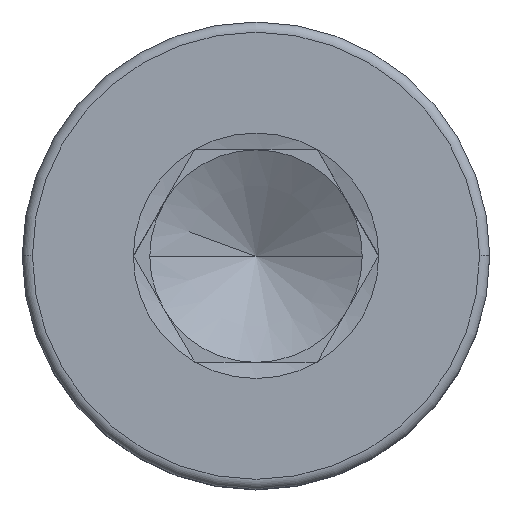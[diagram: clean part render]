
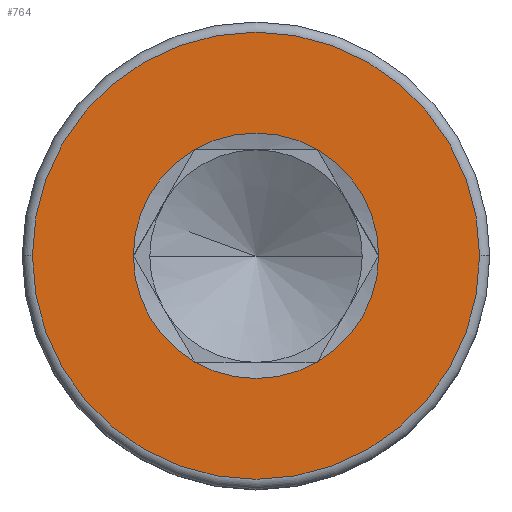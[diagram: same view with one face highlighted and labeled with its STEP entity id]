
A CAD part, top view. The second image highlights one B-rep face of the part: STEP entity #764.
In plain terms, the highlighted planar face has unit normal (0, 0, 1).
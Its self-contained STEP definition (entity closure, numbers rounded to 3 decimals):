
#47 = DIRECTION ( 'NONE',  ( 1., 0., 0. ) ) ;
#98 = VERTEX_POINT ( 'NONE', #1713 ) ;
#105 = EDGE_CURVE ( 'NONE', #403, #673, #1858, .T. ) ;
#153 = CARTESIAN_POINT ( 'NONE',  ( -0.722, -1.25, 3. ) ) ;
#171 = EDGE_CURVE ( 'NONE', #1370, #773, #267, .T. ) ;
#184 = CARTESIAN_POINT ( 'NONE',  ( 2.63, 0., 3. ) ) ;
#204 = PLANE ( 'NONE',  #421 ) ;
#251 = ORIENTED_EDGE ( 'NONE', *, *, #354, .F. ) ;
#266 = AXIS2_PLACEMENT_3D ( 'NONE', #1648, #1493, #1481 ) ;
#267 = CIRCLE ( 'NONE', #1734, 1.443 ) ;
#277 = VERTEX_POINT ( 'NONE', #184 ) ;
#286 = CARTESIAN_POINT ( 'NONE',  ( 0., 0., 3. ) ) ;
#319 = VERTEX_POINT ( 'NONE', #1053 ) ;
#354 = EDGE_CURVE ( 'NONE', #98, #1633, #572, .T. ) ;
#383 = DIRECTION ( 'NONE',  ( 1., 0., 0. ) ) ;
#397 = CARTESIAN_POINT ( 'NONE',  ( -1.443, 0., 3. ) ) ;
#403 = VERTEX_POINT ( 'NONE', #397 ) ;
#406 = CARTESIAN_POINT ( 'NONE',  ( 0., 0., 3. ) ) ;
#416 = DIRECTION ( 'NONE',  ( 1., 0., 0. ) ) ;
#421 = AXIS2_PLACEMENT_3D ( 'NONE', #491, #777, #928 ) ;
#491 = CARTESIAN_POINT ( 'NONE',  ( 0., 0., 3. ) ) ;
#572 = CIRCLE ( 'NONE', #1764, 1.443 ) ;
#597 = DIRECTION ( 'NONE',  ( 0., 0., 1. ) ) ;
#602 = ORIENTED_EDGE ( 'NONE', *, *, #1173, .T. ) ;
#604 = AXIS2_PLACEMENT_3D ( 'NONE', #1054, #597, #763 ) ;
#610 = DIRECTION ( 'NONE',  ( 0., 0., 1. ) ) ;
#616 = ORIENTED_EDGE ( 'NONE', *, *, #171, .F. ) ;
#618 = CARTESIAN_POINT ( 'NONE',  ( 0., 0., 3. ) ) ;
#673 = VERTEX_POINT ( 'NONE', #153 ) ;
#674 = CARTESIAN_POINT ( 'NONE',  ( 0., 0., 3. ) ) ;
#691 = DIRECTION ( 'NONE',  ( 0., 0., 1. ) ) ;
#702 = DIRECTION ( 'NONE',  ( 1., 0., 0. ) ) ;
#712 = DIRECTION ( 'NONE',  ( 0., 0., 1. ) ) ;
#749 = CARTESIAN_POINT ( 'NONE',  ( 0., 0., 3. ) ) ;
#763 = DIRECTION ( 'NONE',  ( 1., 0., 0. ) ) ;
#764 = ADVANCED_FACE ( 'NONE', ( #1803, #1339 ), #204, .T. ) ;
#773 = VERTEX_POINT ( 'NONE', #1523 ) ;
#777 = DIRECTION ( 'NONE',  ( 0., 0., 1. ) ) ;
#785 = AXIS2_PLACEMENT_3D ( 'NONE', #618, #610, #47 ) ;
#812 = EDGE_LOOP ( 'NONE', ( #842, #602 ) ) ;
#842 = ORIENTED_EDGE ( 'NONE', *, *, #1655, .T. ) ;
#873 = DIRECTION ( 'NONE',  ( 1., 0., 0. ) ) ;
#894 = EDGE_CURVE ( 'NONE', #1633, #1370, #1305, .T. ) ;
#916 = ORIENTED_EDGE ( 'NONE', *, *, #1079, .F. ) ;
#928 = DIRECTION ( 'NONE',  ( 1., 0., 0. ) ) ;
#1026 = CIRCLE ( 'NONE', #604, 1.443 ) ;
#1046 = CARTESIAN_POINT ( 'NONE',  ( 1.443, 0., 3. ) ) ;
#1053 = CARTESIAN_POINT ( 'NONE',  ( -2.63, 0., 3. ) ) ;
#1054 = CARTESIAN_POINT ( 'NONE',  ( 0., 0., 3. ) ) ;
#1079 = EDGE_CURVE ( 'NONE', #773, #403, #1456, .T. ) ;
#1122 = AXIS2_PLACEMENT_3D ( 'NONE', #286, #712, #873 ) ;
#1154 = AXIS2_PLACEMENT_3D ( 'NONE', #1264, #1699, #702 ) ;
#1161 = ORIENTED_EDGE ( 'NONE', *, *, #105, .F. ) ;
#1173 = EDGE_CURVE ( 'NONE', #319, #277, #1396, .T. ) ;
#1243 = CARTESIAN_POINT ( 'NONE',  ( 0.722, 1.25, 3. ) ) ;
#1264 = CARTESIAN_POINT ( 'NONE',  ( 0., 0., 3. ) ) ;
#1305 = CIRCLE ( 'NONE', #1851, 1.443 ) ;
#1332 = DIRECTION ( 'NONE',  ( 1., 0., 0. ) ) ;
#1339 = FACE_BOUND ( 'NONE', #1692, .T. ) ;
#1370 = VERTEX_POINT ( 'NONE', #1243 ) ;
#1396 = CIRCLE ( 'NONE', #266, 2.63 ) ;
#1456 = CIRCLE ( 'NONE', #1122, 1.443 ) ;
#1481 = DIRECTION ( 'NONE',  ( 1., 0., 0. ) ) ;
#1493 = DIRECTION ( 'NONE',  ( 0., 0., 1. ) ) ;
#1523 = CARTESIAN_POINT ( 'NONE',  ( -0.722, 1.25, 3. ) ) ;
#1588 = ORIENTED_EDGE ( 'NONE', *, *, #1663, .F. ) ;
#1594 = DIRECTION ( 'NONE',  ( 0., 0., 1. ) ) ;
#1603 = ORIENTED_EDGE ( 'NONE', *, *, #894, .F. ) ;
#1610 = CIRCLE ( 'NONE', #785, 2.63 ) ;
#1633 = VERTEX_POINT ( 'NONE', #1046 ) ;
#1648 = CARTESIAN_POINT ( 'NONE',  ( 0., 0., 3. ) ) ;
#1655 = EDGE_CURVE ( 'NONE', #277, #319, #1610, .T. ) ;
#1663 = EDGE_CURVE ( 'NONE', #673, #98, #1026, .T. ) ;
#1692 = EDGE_LOOP ( 'NONE', ( #1603, #251, #1588, #1161, #916, #616 ) ) ;
#1699 = DIRECTION ( 'NONE',  ( 0., 0., 1. ) ) ;
#1713 = CARTESIAN_POINT ( 'NONE',  ( 0.722, -1.25, 3. ) ) ;
#1734 = AXIS2_PLACEMENT_3D ( 'NONE', #406, #1594, #416 ) ;
#1764 = AXIS2_PLACEMENT_3D ( 'NONE', #749, #1775, #1332 ) ;
#1775 = DIRECTION ( 'NONE',  ( 0., 0., 1. ) ) ;
#1803 = FACE_OUTER_BOUND ( 'NONE', #812, .T. ) ;
#1851 = AXIS2_PLACEMENT_3D ( 'NONE', #674, #691, #383 ) ;
#1858 = CIRCLE ( 'NONE', #1154, 1.443 ) ;
